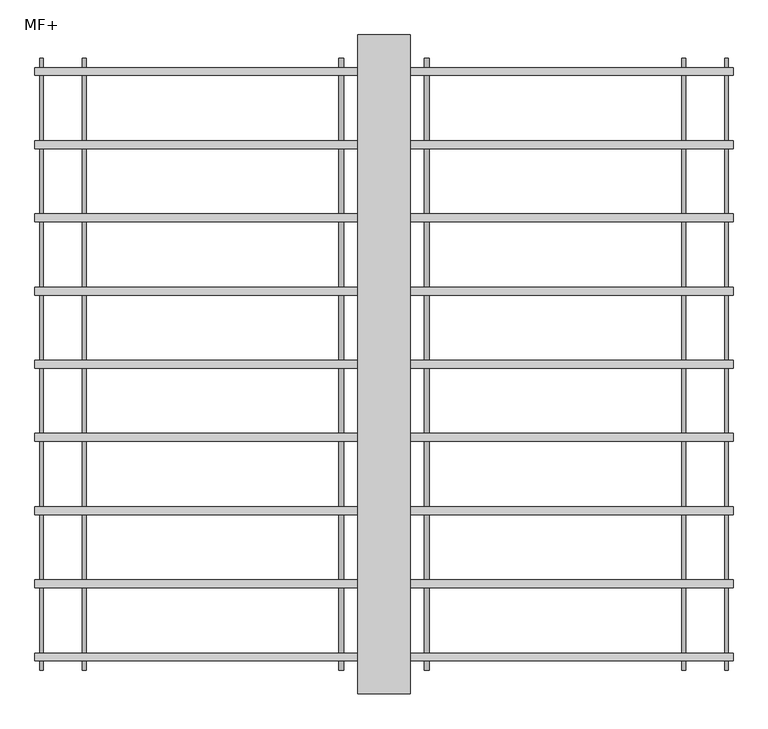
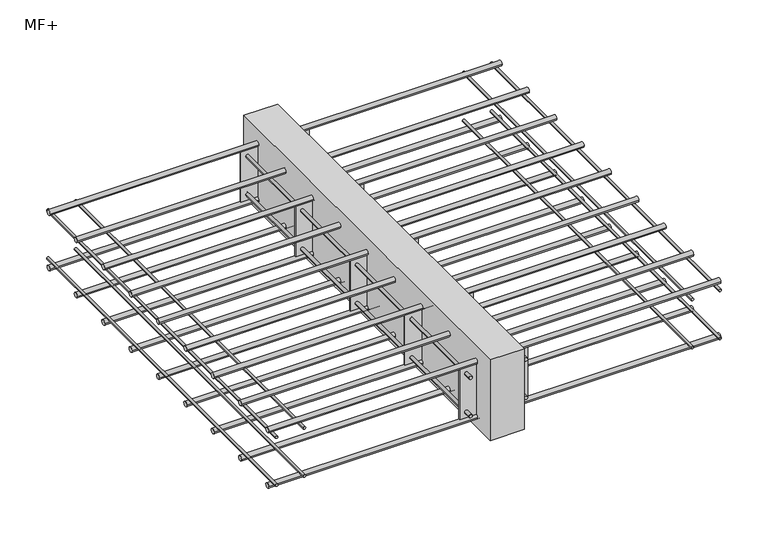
"""IFC4 building model written with IfcOpenShell, lengths in millimetres: proxy geometry, ACINOXplus_Typenreihe_M : MF+."""

from ifc_helpers import new_model, si_unit, point, frame, frame_2d, origin, place, context, project, spatial, polyline, circle_curve, trimmed, segment, composite_curve, outline, extrude, source, transform, mapped, element, save


def mf_60b6a00b(model_context):
    return source(origin(), model_context, "Body", "SweptSolid", [
        extrude(outline(polyline([(40.0, 500.0), (40.0, -500.0), (-40.0, -500.0), (-40.0, 500.0), (40.0, 500.0)])), frame((0.0, 0.0, -200.0), z_axis=(0.0, 0.0, 1.0), x_axis=(1.0, 0.0, 0.0)), (0.0, 0.0, 1.0), 200.0),
        extrude(outline(polyline([(80.0, -220.7222222), (80.0, -223.7222222), (-80.0, -223.7222222), (-80.0, -220.7222222), (80.0, -220.7222222)])), frame((0.0, 0.0, -167.0), z_axis=(0.0, 0.0, 1.0), x_axis=(1.0, 0.0, 0.0)), (0.0, 0.0, 1.0), 125.0),
        extrude(outline(polyline([(80.0, 1.5), (80.0, -1.5), (-80.0, -1.5), (-80.0, 1.5), (80.0, 1.5)])), frame((0.0, 0.0, -167.0), z_axis=(0.0, 0.0, 1.0), x_axis=(1.0, 0.0, 0.0)), (0.0, 0.0, 1.0), 125.0),
        extrude(outline(polyline([(80.0, 223.7222222), (80.0, 220.7222222), (-80.0, 220.7222222), (-80.0, 223.7222222), (80.0, 223.7222222)])), frame((0.0, 0.0, -167.0), z_axis=(0.0, 0.0, 1.0), x_axis=(1.0, 0.0, 0.0)), (0.0, 0.0, 1.0), 125.0),
        extrude(outline(polyline([(80.0, -442.9444444), (80.0, -445.9444444), (-80.0, -445.9444444), (-80.0, -442.9444444), (80.0, -442.9444444)])), frame((0.0, 0.0, -167.0), z_axis=(0.0, 0.0, 1.0), x_axis=(1.0, 0.0, 0.0)), (0.0, 0.0, 1.0), 125.0),
        extrude(outline(polyline([(80.0, 445.9444444), (80.0, 442.9444444), (-80.0, 442.9444444), (-80.0, 445.9444444), (80.0, 445.9444444)])), frame((0.0, 0.0, -167.0), z_axis=(0.0, 0.0, 1.0), x_axis=(1.0, 0.0, 0.0)), (0.0, 0.0, 1.0), 125.0),
        extrude(outline(composite_curve([segment(trimmed(circle_curve(frame_2d((-152.0, -65.0)), 4.0), [point((-152.0, -61.0))], [point((-152.0, -69.0))], False, "CARTESIAN"), True, "CONTINUOUS"), segment(trimmed(circle_curve(frame_2d((-152.0, -65.0)), 4.0), [point((-152.0, -69.0))], [point((-152.0, -61.0))], False, "CARTESIAN"), True, "CONTINUOUS")], self_intersect=False)), frame((0.0, -464.4444444, 0.0), z_axis=(0.0, 1.0, 0.0), x_axis=(0.0, 0.0, 1.0)), (0.0, 0.0, 1.0), 18.5),
        extrude(outline(composite_curve([segment(trimmed(circle_curve(frame_2d((-152.0, -65.0)), 4.0), [point((-152.0, -69.0))], [point((-152.0, -61.0))], False, "CARTESIAN"), True, "CONTINUOUS"), segment(trimmed(circle_curve(frame_2d((-152.0, -65.0)), 4.0), [point((-152.0, -61.0))], [point((-152.0, -69.0))], False, "CARTESIAN"), True, "CONTINUOUS")], self_intersect=False)), frame((0.0, -442.9444444, 0.0), z_axis=(0.0, 1.0, 0.0), x_axis=(0.0, 0.0, 1.0)), (0.0, 0.0, 1.0), 663.6666667),
        extrude(outline(composite_curve([segment(trimmed(circle_curve(frame_2d((-152.0, -65.0)), 4.0), [point((-152.0, -69.0))], [point((-152.0, -61.0))], False, "CARTESIAN"), True, "CONTINUOUS"), segment(trimmed(circle_curve(frame_2d((-152.0, -65.0)), 4.0), [point((-152.0, -61.0))], [point((-152.0, -69.0))], False, "CARTESIAN"), True, "CONTINUOUS")], self_intersect=False)), frame((0.0, 445.9444444, 0.0), z_axis=(0.0, 1.0, 0.0), x_axis=(0.0, 0.0, 1.0)), (0.0, 0.0, 1.0), 18.5),
        extrude(outline(composite_curve([segment(trimmed(circle_curve(frame_2d((-152.0, -65.0)), 4.0), [point((-152.0, -69.0))], [point((-152.0, -61.0))], False, "CARTESIAN"), True, "CONTINUOUS"), segment(trimmed(circle_curve(frame_2d((-152.0, -65.0)), 4.0), [point((-152.0, -61.0))], [point((-152.0, -69.0))], False, "CARTESIAN"), True, "CONTINUOUS")], self_intersect=False)), frame((0.0, 223.7222222, 0.0), z_axis=(0.0, 1.0, 0.0), x_axis=(0.0, 0.0, 1.0)), (0.0, 0.0, 1.0), 219.2222222),
        extrude(outline(composite_curve([segment(trimmed(circle_curve(frame_2d((-152.0, 65.0)), 4.0), [point((-152.0, 69.0))], [point((-152.0, 61.0))], False, "CARTESIAN"), True, "CONTINUOUS"), segment(trimmed(circle_curve(frame_2d((-152.0, 65.0)), 4.0), [point((-152.0, 61.0))], [point((-152.0, 69.0))], False, "CARTESIAN"), True, "CONTINUOUS")], self_intersect=False)), frame((0.0, -464.4444444, 0.0), z_axis=(0.0, 1.0, 0.0), x_axis=(0.0, 0.0, 1.0)), (0.0, 0.0, 1.0), 18.5),
        extrude(outline(composite_curve([segment(trimmed(circle_curve(frame_2d((-152.0, 65.0)), 4.0), [point((-152.0, 61.0))], [point((-152.0, 69.0))], False, "CARTESIAN"), True, "CONTINUOUS"), segment(trimmed(circle_curve(frame_2d((-152.0, 65.0)), 4.0), [point((-152.0, 69.0))], [point((-152.0, 61.0))], False, "CARTESIAN"), True, "CONTINUOUS")], self_intersect=False)), frame((0.0, -442.9444444, 0.0), z_axis=(0.0, 1.0, 0.0), x_axis=(0.0, 0.0, 1.0)), (0.0, 0.0, 1.0), 663.6666667),
        extrude(outline(composite_curve([segment(trimmed(circle_curve(frame_2d((-152.0, 65.0)), 4.0), [point((-152.0, 61.0))], [point((-152.0, 69.0))], False, "CARTESIAN"), True, "CONTINUOUS"), segment(trimmed(circle_curve(frame_2d((-152.0, 65.0)), 4.0), [point((-152.0, 69.0))], [point((-152.0, 61.0))], False, "CARTESIAN"), True, "CONTINUOUS")], self_intersect=False)), frame((0.0, 445.9444444, 0.0), z_axis=(0.0, 1.0, 0.0), x_axis=(0.0, 0.0, 1.0)), (0.0, 0.0, 1.0), 18.5),
        extrude(outline(composite_curve([segment(trimmed(circle_curve(frame_2d((-152.0, 65.0)), 4.0), [point((-152.0, 61.0))], [point((-152.0, 69.0))], False, "CARTESIAN"), True, "CONTINUOUS"), segment(trimmed(circle_curve(frame_2d((-152.0, 65.0)), 4.0), [point((-152.0, 69.0))], [point((-152.0, 61.0))], False, "CARTESIAN"), True, "CONTINUOUS")], self_intersect=False)), frame((0.0, 223.7222222, 0.0), z_axis=(0.0, 1.0, 0.0), x_axis=(0.0, 0.0, 1.0)), (0.0, 0.0, 1.0), 219.2222222),
        extrude(outline(composite_curve([segment(trimmed(circle_curve(frame_2d((-57.0, -65.0)), 4.0), [point((-57.0, -61.0))], [point((-57.0, -69.0))], False, "CARTESIAN"), True, "CONTINUOUS"), segment(trimmed(circle_curve(frame_2d((-57.0, -65.0)), 4.0), [point((-57.0, -69.0))], [point((-57.0, -61.0))], False, "CARTESIAN"), True, "CONTINUOUS")], self_intersect=False)), frame((0.0, -464.4444444, 0.0), z_axis=(0.0, 1.0, 0.0), x_axis=(0.0, 0.0, 1.0)), (0.0, 0.0, 1.0), 18.5),
        extrude(outline(composite_curve([segment(trimmed(circle_curve(frame_2d((-57.0, -65.0)), 4.0), [point((-57.0, -69.0))], [point((-57.0, -61.0))], False, "CARTESIAN"), True, "CONTINUOUS"), segment(trimmed(circle_curve(frame_2d((-57.0, -65.0)), 4.0), [point((-57.0, -61.0))], [point((-57.0, -69.0))], False, "CARTESIAN"), True, "CONTINUOUS")], self_intersect=False)), frame((0.0, -442.9444444, 0.0), z_axis=(0.0, 1.0, 0.0), x_axis=(0.0, 0.0, 1.0)), (0.0, 0.0, 1.0), 663.6666667),
        extrude(outline(composite_curve([segment(trimmed(circle_curve(frame_2d((-57.0, -65.0)), 4.0), [point((-57.0, -69.0))], [point((-57.0, -61.0))], False, "CARTESIAN"), True, "CONTINUOUS"), segment(trimmed(circle_curve(frame_2d((-57.0, -65.0)), 4.0), [point((-57.0, -61.0))], [point((-57.0, -69.0))], False, "CARTESIAN"), True, "CONTINUOUS")], self_intersect=False)), frame((0.0, 445.9444444, 0.0), z_axis=(0.0, 1.0, 0.0), x_axis=(0.0, 0.0, 1.0)), (0.0, 0.0, 1.0), 18.5),
        extrude(outline(composite_curve([segment(trimmed(circle_curve(frame_2d((-57.0, -65.0)), 4.0), [point((-57.0, -69.0))], [point((-57.0, -61.0))], False, "CARTESIAN"), True, "CONTINUOUS"), segment(trimmed(circle_curve(frame_2d((-57.0, -65.0)), 4.0), [point((-57.0, -61.0))], [point((-57.0, -69.0))], False, "CARTESIAN"), True, "CONTINUOUS")], self_intersect=False)), frame((0.0, 223.7222222, 0.0), z_axis=(0.0, 1.0, 0.0), x_axis=(0.0, 0.0, 1.0)), (0.0, 0.0, 1.0), 219.2222222),
        extrude(outline(composite_curve([segment(trimmed(circle_curve(frame_2d((-57.0, 65.0)), 4.0), [point((-57.0, 69.0))], [point((-57.0, 61.0))], False, "CARTESIAN"), True, "CONTINUOUS"), segment(trimmed(circle_curve(frame_2d((-57.0, 65.0)), 4.0), [point((-57.0, 61.0))], [point((-57.0, 69.0))], False, "CARTESIAN"), True, "CONTINUOUS")], self_intersect=False)), frame((0.0, -464.4444444, 0.0), z_axis=(0.0, 1.0, 0.0), x_axis=(0.0, 0.0, 1.0)), (0.0, 0.0, 1.0), 18.5),
        extrude(outline(composite_curve([segment(trimmed(circle_curve(frame_2d((-57.0, 65.0)), 4.0), [point((-57.0, 61.0))], [point((-57.0, 69.0))], False, "CARTESIAN"), True, "CONTINUOUS"), segment(trimmed(circle_curve(frame_2d((-57.0, 65.0)), 4.0), [point((-57.0, 69.0))], [point((-57.0, 61.0))], False, "CARTESIAN"), True, "CONTINUOUS")], self_intersect=False)), frame((0.0, -442.9444444, 0.0), z_axis=(0.0, 1.0, 0.0), x_axis=(0.0, 0.0, 1.0)), (0.0, 0.0, 1.0), 663.6666667),
        extrude(outline(composite_curve([segment(trimmed(circle_curve(frame_2d((-57.0, 65.0)), 4.0), [point((-57.0, 61.0))], [point((-57.0, 69.0))], False, "CARTESIAN"), True, "CONTINUOUS"), segment(trimmed(circle_curve(frame_2d((-57.0, 65.0)), 4.0), [point((-57.0, 69.0))], [point((-57.0, 61.0))], False, "CARTESIAN"), True, "CONTINUOUS")], self_intersect=False)), frame((0.0, 445.9444444, 0.0), z_axis=(0.0, 1.0, 0.0), x_axis=(0.0, 0.0, 1.0)), (0.0, 0.0, 1.0), 18.5),
        extrude(outline(composite_curve([segment(trimmed(circle_curve(frame_2d((-57.0, 65.0)), 4.0), [point((-57.0, 61.0))], [point((-57.0, 69.0))], False, "CARTESIAN"), True, "CONTINUOUS"), segment(trimmed(circle_curve(frame_2d((-57.0, 65.0)), 4.0), [point((-57.0, 69.0))], [point((-57.0, 61.0))], False, "CARTESIAN"), True, "CONTINUOUS")], self_intersect=False)), frame((0.0, 223.7222222, 0.0), z_axis=(0.0, 1.0, 0.0), x_axis=(0.0, 0.0, 1.0)), (0.0, 0.0, 1.0), 219.2222222),
        extrude(outline(composite_curve([segment(trimmed(circle_curve(frame_2d((222.2222222, -173.0)), 6.0), [point((216.2222222, -173.0))], [point((228.2222222, -173.0))], False, "CARTESIAN"), True, "CONTINUOUS"), segment(trimmed(circle_curve(frame_2d((222.2222222, -173.0)), 6.0), [point((228.2222222, -173.0))], [point((216.2222222, -173.0))], False, "CARTESIAN"), True, "CONTINUOUS")], self_intersect=False)), frame((-530.0, 0.0, 0.0), z_axis=(1.0, 0.0, 0.0), x_axis=(0.0, 1.0, 0.0)), (0.0, 0.0, 1.0), 1060.0),
        extrude(outline(composite_curve([segment(trimmed(circle_curve(frame_2d((111.1111111, -173.0)), 6.0), [point((105.1111111, -173.0))], [point((117.1111111, -173.0))], False, "CARTESIAN"), True, "CONTINUOUS"), segment(trimmed(circle_curve(frame_2d((111.1111111, -173.0)), 6.0), [point((117.1111111, -173.0))], [point((105.1111111, -173.0))], False, "CARTESIAN"), True, "CONTINUOUS")], self_intersect=False)), frame((-530.0, 0.0, 0.0), z_axis=(1.0, 0.0, 0.0), x_axis=(0.0, 1.0, 0.0)), (0.0, 0.0, 1.0), 1060.0),
        extrude(outline(composite_curve([segment(trimmed(circle_curve(frame_2d((0.0, -173.0)), 6.0), [point((-6.0, -173.0))], [point((6.0, -173.0))], False, "CARTESIAN"), True, "CONTINUOUS"), segment(trimmed(circle_curve(frame_2d((0.0, -173.0)), 6.0), [point((6.0, -173.0))], [point((-6.0, -173.0))], False, "CARTESIAN"), True, "CONTINUOUS")], self_intersect=False)), frame((-530.0, 0.0, 0.0), z_axis=(1.0, 0.0, 0.0), x_axis=(0.0, 1.0, 0.0)), (0.0, 0.0, 1.0), 1060.0),
        extrude(outline(composite_curve([segment(trimmed(circle_curve(frame_2d((-111.1111111, -173.0)), 6.0), [point((-117.1111111, -173.0))], [point((-105.1111111, -173.0))], False, "CARTESIAN"), True, "CONTINUOUS"), segment(trimmed(circle_curve(frame_2d((-111.1111111, -173.0)), 6.0), [point((-105.1111111, -173.0))], [point((-117.1111111, -173.0))], False, "CARTESIAN"), True, "CONTINUOUS")], self_intersect=False)), frame((-530.0, 0.0, 0.0), z_axis=(1.0, 0.0, 0.0), x_axis=(0.0, 1.0, 0.0)), (0.0, 0.0, 1.0), 1060.0),
        extrude(outline(composite_curve([segment(trimmed(circle_curve(frame_2d((-222.2222222, -173.0)), 6.0), [point((-228.2222222, -173.0))], [point((-216.2222222, -173.0))], False, "CARTESIAN"), True, "CONTINUOUS"), segment(trimmed(circle_curve(frame_2d((-222.2222222, -173.0)), 6.0), [point((-216.2222222, -173.0))], [point((-228.2222222, -173.0))], False, "CARTESIAN"), True, "CONTINUOUS")], self_intersect=False)), frame((-530.0, 0.0, 0.0), z_axis=(1.0, 0.0, 0.0), x_axis=(0.0, 1.0, 0.0)), (0.0, 0.0, 1.0), 1060.0),
        extrude(outline(composite_curve([segment(trimmed(circle_curve(frame_2d((333.3333333, -173.0)), 6.0), [point((327.3333333, -173.0))], [point((339.3333333, -173.0))], False, "CARTESIAN"), True, "CONTINUOUS"), segment(trimmed(circle_curve(frame_2d((333.3333333, -173.0)), 6.0), [point((339.3333333, -173.0))], [point((327.3333333, -173.0))], False, "CARTESIAN"), True, "CONTINUOUS")], self_intersect=False)), frame((-530.0, 0.0, 0.0), z_axis=(1.0, 0.0, 0.0), x_axis=(0.0, 1.0, 0.0)), (0.0, 0.0, 1.0), 1060.0),
        extrude(outline(composite_curve([segment(trimmed(circle_curve(frame_2d((444.4444444, -173.0)), 6.0), [point((438.4444444, -173.0))], [point((450.4444444, -173.0))], False, "CARTESIAN"), True, "CONTINUOUS"), segment(trimmed(circle_curve(frame_2d((444.4444444, -173.0)), 6.0), [point((450.4444444, -173.0))], [point((438.4444444, -173.0))], False, "CARTESIAN"), True, "CONTINUOUS")], self_intersect=False)), frame((-530.0, 0.0, 0.0), z_axis=(1.0, 0.0, 0.0), x_axis=(0.0, 1.0, 0.0)), (0.0, 0.0, 1.0), 1060.0),
        extrude(outline(composite_curve([segment(trimmed(circle_curve(frame_2d((-333.3333333, -173.0)), 6.0), [point((-339.3333333, -173.0))], [point((-327.3333333, -173.0))], False, "CARTESIAN"), True, "CONTINUOUS"), segment(trimmed(circle_curve(frame_2d((-333.3333333, -173.0)), 6.0), [point((-327.3333333, -173.0))], [point((-339.3333333, -173.0))], False, "CARTESIAN"), True, "CONTINUOUS")], self_intersect=False)), frame((-530.0, 0.0, 0.0), z_axis=(1.0, 0.0, 0.0), x_axis=(0.0, 1.0, 0.0)), (0.0, 0.0, 1.0), 1060.0),
        extrude(outline(composite_curve([segment(trimmed(circle_curve(frame_2d((-444.4444444, -173.0)), 6.0), [point((-450.4444444, -173.0))], [point((-438.4444444, -173.0))], False, "CARTESIAN"), True, "CONTINUOUS"), segment(trimmed(circle_curve(frame_2d((-444.4444444, -173.0)), 6.0), [point((-438.4444444, -173.0))], [point((-450.4444444, -173.0))], False, "CARTESIAN"), True, "CONTINUOUS")], self_intersect=False)), frame((-530.0, 0.0, 0.0), z_axis=(1.0, 0.0, 0.0), x_axis=(0.0, 1.0, 0.0)), (0.0, 0.0, 1.0), 1060.0),
        extrude(outline(composite_curve([segment(trimmed(circle_curve(frame_2d((222.2222222, -36.0)), 6.0), [point((216.2222222, -36.0))], [point((228.2222222, -36.0))], False, "CARTESIAN"), True, "CONTINUOUS"), segment(trimmed(circle_curve(frame_2d((222.2222222, -36.0)), 6.0), [point((228.2222222, -36.0))], [point((216.2222222, -36.0))], False, "CARTESIAN"), True, "CONTINUOUS")], self_intersect=False)), frame((-530.0, 0.0, 0.0), z_axis=(1.0, 0.0, 0.0), x_axis=(0.0, 1.0, 0.0)), (0.0, 0.0, 1.0), 1060.0),
        extrude(outline(composite_curve([segment(trimmed(circle_curve(frame_2d((111.1111111, -36.0)), 6.0), [point((105.1111111, -36.0))], [point((117.1111111, -36.0))], False, "CARTESIAN"), True, "CONTINUOUS"), segment(trimmed(circle_curve(frame_2d((111.1111111, -36.0)), 6.0), [point((117.1111111, -36.0))], [point((105.1111111, -36.0))], False, "CARTESIAN"), True, "CONTINUOUS")], self_intersect=False)), frame((-530.0, 0.0, 0.0), z_axis=(1.0, 0.0, 0.0), x_axis=(0.0, 1.0, 0.0)), (0.0, 0.0, 1.0), 1060.0),
        extrude(outline(composite_curve([segment(trimmed(circle_curve(frame_2d((0.0, -36.0)), 6.0), [point((-6.0, -36.0))], [point((6.0, -36.0))], False, "CARTESIAN"), True, "CONTINUOUS"), segment(trimmed(circle_curve(frame_2d((0.0, -36.0)), 6.0), [point((6.0, -36.0))], [point((-6.0, -36.0))], False, "CARTESIAN"), True, "CONTINUOUS")], self_intersect=False)), frame((-530.0, 0.0, 0.0), z_axis=(1.0, 0.0, 0.0), x_axis=(0.0, 1.0, 0.0)), (0.0, 0.0, 1.0), 1060.0),
        extrude(outline(composite_curve([segment(trimmed(circle_curve(frame_2d((-111.1111111, -36.0)), 6.0), [point((-117.1111111, -36.0))], [point((-105.1111111, -36.0))], False, "CARTESIAN"), True, "CONTINUOUS"), segment(trimmed(circle_curve(frame_2d((-111.1111111, -36.0)), 6.0), [point((-105.1111111, -36.0))], [point((-117.1111111, -36.0))], False, "CARTESIAN"), True, "CONTINUOUS")], self_intersect=False)), frame((-530.0, 0.0, 0.0), z_axis=(1.0, 0.0, 0.0), x_axis=(0.0, 1.0, 0.0)), (0.0, 0.0, 1.0), 1060.0),
        extrude(outline(composite_curve([segment(trimmed(circle_curve(frame_2d((-222.2222222, -36.0)), 6.0), [point((-228.2222222, -36.0))], [point((-216.2222222, -36.0))], False, "CARTESIAN"), True, "CONTINUOUS"), segment(trimmed(circle_curve(frame_2d((-222.2222222, -36.0)), 6.0), [point((-216.2222222, -36.0))], [point((-228.2222222, -36.0))], False, "CARTESIAN"), True, "CONTINUOUS")], self_intersect=False)), frame((-530.0, 0.0, 0.0), z_axis=(1.0, 0.0, 0.0), x_axis=(0.0, 1.0, 0.0)), (0.0, 0.0, 1.0), 1060.0),
        extrude(outline(composite_curve([segment(trimmed(circle_curve(frame_2d((333.3333333, -36.0)), 6.0), [point((327.3333333, -36.0))], [point((339.3333333, -36.0))], False, "CARTESIAN"), True, "CONTINUOUS"), segment(trimmed(circle_curve(frame_2d((333.3333333, -36.0)), 6.0), [point((339.3333333, -36.0))], [point((327.3333333, -36.0))], False, "CARTESIAN"), True, "CONTINUOUS")], self_intersect=False)), frame((-530.0, 0.0, 0.0), z_axis=(1.0, 0.0, 0.0), x_axis=(0.0, 1.0, 0.0)), (0.0, 0.0, 1.0), 1060.0),
        extrude(outline(composite_curve([segment(trimmed(circle_curve(frame_2d((444.4444444, -36.0)), 6.0), [point((438.4444444, -36.0))], [point((450.4444444, -36.0))], False, "CARTESIAN"), True, "CONTINUOUS"), segment(trimmed(circle_curve(frame_2d((444.4444444, -36.0)), 6.0), [point((450.4444444, -36.0))], [point((438.4444444, -36.0))], False, "CARTESIAN"), True, "CONTINUOUS")], self_intersect=False)), frame((-530.0, 0.0, 0.0), z_axis=(1.0, 0.0, 0.0), x_axis=(0.0, 1.0, 0.0)), (0.0, 0.0, 1.0), 1060.0),
        extrude(outline(composite_curve([segment(trimmed(circle_curve(frame_2d((-333.3333333, -36.0)), 6.0), [point((-339.3333333, -36.0))], [point((-327.3333333, -36.0))], False, "CARTESIAN"), True, "CONTINUOUS"), segment(trimmed(circle_curve(frame_2d((-333.3333333, -36.0)), 6.0), [point((-327.3333333, -36.0))], [point((-339.3333333, -36.0))], False, "CARTESIAN"), True, "CONTINUOUS")], self_intersect=False)), frame((-530.0, 0.0, 0.0), z_axis=(1.0, 0.0, 0.0), x_axis=(0.0, 1.0, 0.0)), (0.0, 0.0, 1.0), 1060.0),
        extrude(outline(composite_curve([segment(trimmed(circle_curve(frame_2d((-444.4444444, -36.0)), 6.0), [point((-450.4444444, -36.0))], [point((-438.4444444, -36.0))], False, "CARTESIAN"), True, "CONTINUOUS"), segment(trimmed(circle_curve(frame_2d((-444.4444444, -36.0)), 6.0), [point((-438.4444444, -36.0))], [point((-450.4444444, -36.0))], False, "CARTESIAN"), True, "CONTINUOUS")], self_intersect=False)), frame((-530.0, 0.0, 0.0), z_axis=(1.0, 0.0, 0.0), x_axis=(0.0, 1.0, 0.0)), (0.0, 0.0, 1.0), 1060.0),
        extrude(outline(composite_curve([segment(trimmed(circle_curve(frame_2d((-164.0, -520.0)), 3.0), [point((-164.0, -517.0))], [point((-164.0, -523.0))], False, "CARTESIAN"), True, "CONTINUOUS"), segment(trimmed(circle_curve(frame_2d((-164.0, -520.0)), 3.0), [point((-164.0, -523.0))], [point((-164.0, -517.0))], False, "CARTESIAN"), True, "CONTINUOUS")], self_intersect=False)), frame((0.0, -464.4444444, 0.0), z_axis=(0.0, 1.0, 0.0), x_axis=(0.0, 0.0, 1.0)), (0.0, 0.0, 1.0), 928.8888889),
        extrude(outline(composite_curve([segment(trimmed(circle_curve(frame_2d((-164.0, -455.0)), 3.0), [point((-164.0, -452.0))], [point((-164.0, -458.0))], False, "CARTESIAN"), True, "CONTINUOUS"), segment(trimmed(circle_curve(frame_2d((-164.0, -455.0)), 3.0), [point((-164.0, -458.0))], [point((-164.0, -452.0))], False, "CARTESIAN"), True, "CONTINUOUS")], self_intersect=False)), frame((0.0, -464.4444444, 0.0), z_axis=(0.0, 1.0, 0.0), x_axis=(0.0, 0.0, 1.0)), (0.0, 0.0, 1.0), 928.8888889),
        extrude(outline(composite_curve([segment(trimmed(circle_curve(frame_2d((-164.0, 455.0)), 3.0), [point((-164.0, 458.0))], [point((-164.0, 452.0))], False, "CARTESIAN"), True, "CONTINUOUS"), segment(trimmed(circle_curve(frame_2d((-164.0, 455.0)), 3.0), [point((-164.0, 452.0))], [point((-164.0, 458.0))], False, "CARTESIAN"), True, "CONTINUOUS")], self_intersect=False)), frame((0.0, -464.4444444, 0.0), z_axis=(0.0, 1.0, 0.0), x_axis=(0.0, 0.0, 1.0)), (0.0, 0.0, 1.0), 928.8888889),
        extrude(outline(composite_curve([segment(trimmed(circle_curve(frame_2d((-164.0, 520.0)), 3.0), [point((-164.0, 523.0))], [point((-164.0, 517.0))], False, "CARTESIAN"), True, "CONTINUOUS"), segment(trimmed(circle_curve(frame_2d((-164.0, 520.0)), 3.0), [point((-164.0, 517.0))], [point((-164.0, 523.0))], False, "CARTESIAN"), True, "CONTINUOUS")], self_intersect=False)), frame((0.0, -464.4444444, 0.0), z_axis=(0.0, 1.0, 0.0), x_axis=(0.0, 0.0, 1.0)), (0.0, 0.0, 1.0), 928.8888889),
        extrude(outline(composite_curve([segment(trimmed(circle_curve(frame_2d((-45.0, 455.0)), 3.0), [point((-45.0, 458.0))], [point((-45.0, 452.0))], False, "CARTESIAN"), True, "CONTINUOUS"), segment(trimmed(circle_curve(frame_2d((-45.0, 455.0)), 3.0), [point((-45.0, 452.0))], [point((-45.0, 458.0))], False, "CARTESIAN"), True, "CONTINUOUS")], self_intersect=False)), frame((0.0, -464.4444444, 0.0), z_axis=(0.0, 1.0, 0.0), x_axis=(0.0, 0.0, 1.0)), (0.0, 0.0, 1.0), 928.8888889),
        extrude(outline(composite_curve([segment(trimmed(circle_curve(frame_2d((-45.0, 520.0)), 3.0), [point((-45.0, 523.0))], [point((-45.0, 517.0))], False, "CARTESIAN"), True, "CONTINUOUS"), segment(trimmed(circle_curve(frame_2d((-45.0, 520.0)), 3.0), [point((-45.0, 517.0))], [point((-45.0, 523.0))], False, "CARTESIAN"), True, "CONTINUOUS")], self_intersect=False)), frame((0.0, -464.4444444, 0.0), z_axis=(0.0, 1.0, 0.0), x_axis=(0.0, 0.0, 1.0)), (0.0, 0.0, 1.0), 928.8888889),
        extrude(outline(composite_curve([segment(trimmed(circle_curve(frame_2d((-45.0, -520.0)), 3.0), [point((-45.0, -517.0))], [point((-45.0, -523.0))], False, "CARTESIAN"), True, "CONTINUOUS"), segment(trimmed(circle_curve(frame_2d((-45.0, -520.0)), 3.0), [point((-45.0, -523.0))], [point((-45.0, -517.0))], False, "CARTESIAN"), True, "CONTINUOUS")], self_intersect=False)), frame((0.0, -464.4444444, 0.0), z_axis=(0.0, 1.0, 0.0), x_axis=(0.0, 0.0, 1.0)), (0.0, 0.0, 1.0), 928.8888889),
        extrude(outline(composite_curve([segment(trimmed(circle_curve(frame_2d((-45.0, -455.0)), 3.0), [point((-45.0, -452.0))], [point((-45.0, -458.0))], False, "CARTESIAN"), True, "CONTINUOUS"), segment(trimmed(circle_curve(frame_2d((-45.0, -455.0)), 3.0), [point((-45.0, -458.0))], [point((-45.0, -452.0))], False, "CARTESIAN"), True, "CONTINUOUS")], self_intersect=False)), frame((0.0, -464.4444444, 0.0), z_axis=(0.0, 1.0, 0.0), x_axis=(0.0, 0.0, 1.0)), (0.0, 0.0, 1.0), 928.8888889),
    ])


if __name__ == "__main__":
    model = new_model("IFC4")
    model_context = context("Model", 3, world=origin())
    ifc_project = project(units=[si_unit("LENGTHUNIT", "METRE", prefix="MILLI")], contexts=[model_context])
    site = spatial("IfcSite", under=ifc_project)
    building = spatial("IfcBuilding", under=site)
    placement = place(None, origin())
    mf_shape = mf_60b6a00b(model_context)
    element("IfcBuildingElementProxy", 1, Name="ACINOXplus_Typenreihe_M : MF+", ObjectType="ACINOXplus_Typenreihe_M : MF+", at=placement, inside=building, context=model_context, shape_type="MappedRepresentation", body=[
        mapped(mf_shape, transform((0.0, 0.0, 0.0), x_axis=(1.0, 0.0, 0.0), y_axis=(0.0, 1.0, 0.0), z_axis=(0.0, 0.0, 1.0))),
    ])
    save(model, "model.ifc")
